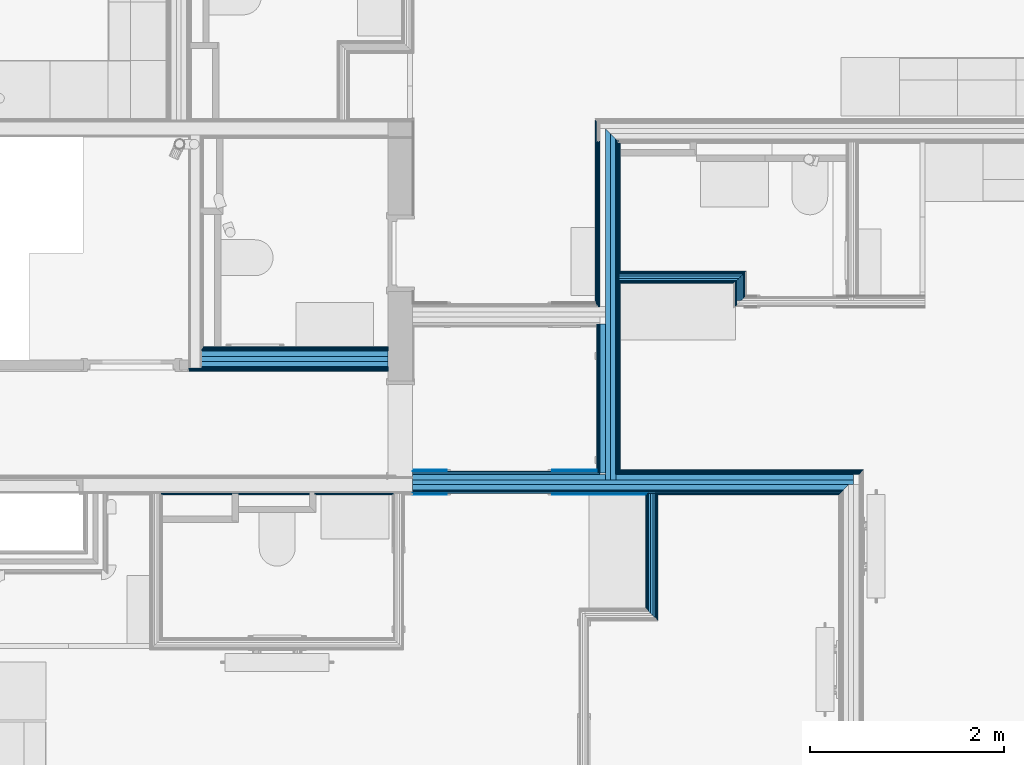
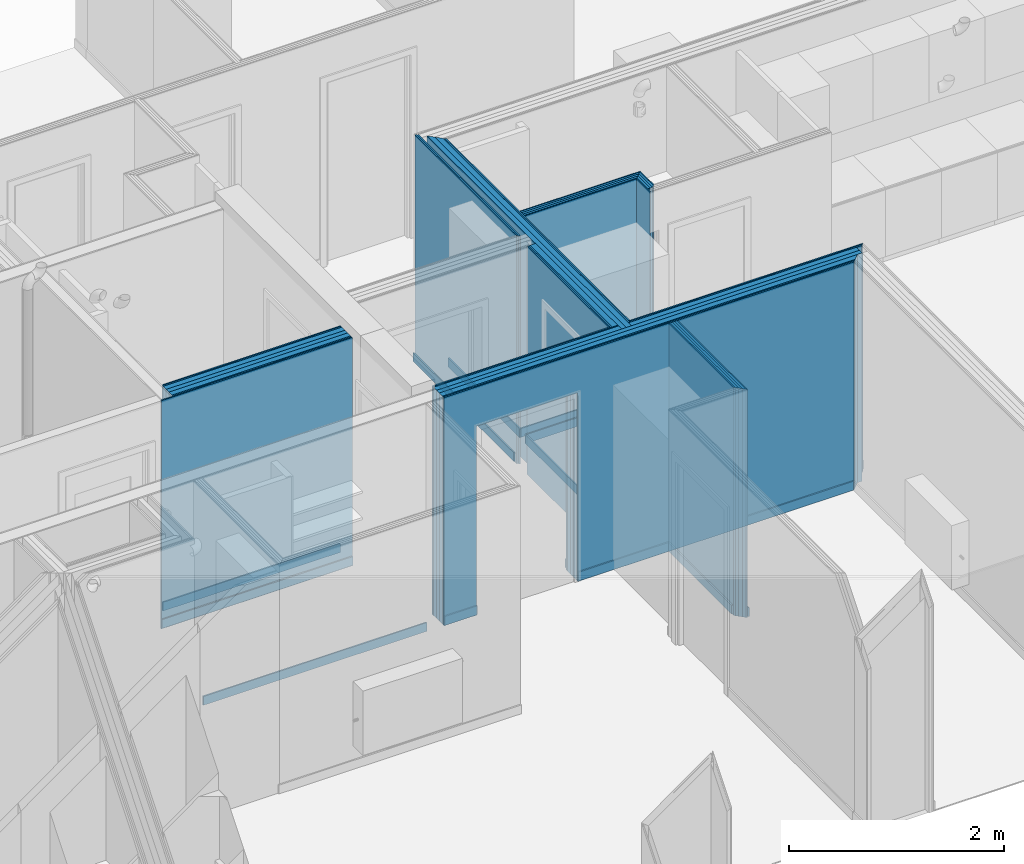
# One storey, part 21 of 82: 56 building element parts, 2 openings, 7 elements without a shape of their own.
"""IFC2X3 building model written with IfcOpenShell, lengths in metres."""

from ifc_helpers import new_model, entity, si_unit, converted_unit, derived_unit, money_unit, direction, frame, frame_2d, origin_with_axes, place, context, subcontext, project, spatial, polyline, rectangle, outline, extrude, material, type_object, element, aggregate, save


model = new_model("IFC2X3")

# Units and contexts
model_context = context("Model", 3, precision=1e-05, world=origin_with_axes(), true_north=direction((0.0, 1.0)))
body_context = subcontext(model_context, "Body", "Model", "MODEL_VIEW", scale=1.0)
ifc_project = project(units=[si_unit("LENGTHUNIT", "METRE"), si_unit("AREAUNIT", "SQUARE_METRE"), si_unit("VOLUMEUNIT", "CUBIC_METRE"), si_unit("ABSORBEDDOSEUNIT", "GRAY"), si_unit("AMOUNTOFSUBSTANCEUNIT", "MOLE"), si_unit("DOSEEQUIVALENTUNIT", "SIEVERT"), si_unit("ELECTRICCAPACITANCEUNIT", "FARAD"), si_unit("ELECTRICCHARGEUNIT", "COULOMB"), si_unit("ELECTRICCONDUCTANCEUNIT", "SIEMENS"), si_unit("ELECTRICCURRENTUNIT", "AMPERE"), si_unit("ELECTRICRESISTANCEUNIT", "OHM"), si_unit("ELECTRICVOLTAGEUNIT", "VOLT"), si_unit("ENERGYUNIT", "JOULE"), si_unit("FORCEUNIT", "NEWTON"), si_unit("FREQUENCYUNIT", "HERTZ"), si_unit("ILLUMINANCEUNIT", "LUX"), si_unit("INDUCTANCEUNIT", "HENRY"), si_unit("LUMINOUSFLUXUNIT", "LUMEN"), si_unit("LUMINOUSINTENSITYUNIT", "CANDELA"), si_unit("MAGNETICFLUXDENSITYUNIT", "TESLA"), si_unit("MAGNETICFLUXUNIT", "WEBER"), si_unit("MASSUNIT", "GRAM"), converted_unit("PLANEANGLEUNIT", "degree", entity("IfcReal", 0.0174532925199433), si_unit("PLANEANGLEUNIT", "RADIAN"), dimensions=[0, 0, 0, 0, 0, 0, 0]), si_unit("POWERUNIT", "WATT"), si_unit("PRESSUREUNIT", "PASCAL"), si_unit("RADIOACTIVITYUNIT", "BECQUEREL"), si_unit("SOLIDANGLEUNIT", "STERADIAN"), si_unit("THERMODYNAMICTEMPERATUREUNIT", "KELVIN"), si_unit("TIMEUNIT", "SECOND"), derived_unit("ACCELERATIONUNIT", [(si_unit("LENGTHUNIT", "METRE"), 1), (si_unit("TIMEUNIT", "SECOND"), -2)]), derived_unit("ANGULARVELOCITYUNIT", [(converted_unit("PLANEANGLEUNIT", "degree", entity("IfcReal", 0.0174532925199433), si_unit("PLANEANGLEUNIT", "RADIAN"), dimensions=[0, 0, 0, 0, 0, 0, 0]), 1), (si_unit("TIMEUNIT", "SECOND"), -1)]), derived_unit("CURVATUREUNIT", [(converted_unit("PLANEANGLEUNIT", "degree", entity("IfcReal", 0.0174532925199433), si_unit("PLANEANGLEUNIT", "RADIAN"), dimensions=[0, 0, 0, 0, 0, 0, 0]), 1), (si_unit("LENGTHUNIT", "METRE"), -1)]), derived_unit("DYNAMICVISCOSITYUNIT", [(si_unit("PRESSUREUNIT", "PASCAL"), 1), (si_unit("TIMEUNIT", "SECOND"), 1)]), derived_unit("HEATFLUXDENSITYUNIT", [(si_unit("POWERUNIT", "WATT"), 1), (si_unit("LENGTHUNIT", "METRE"), -2)]), derived_unit("HEATINGVALUEUNIT", [(si_unit("ENERGYUNIT", "JOULE"), 1), (si_unit("MASSUNIT", "GRAM"), -1)]), derived_unit("INTEGERCOUNTRATEUNIT", [(si_unit("TIMEUNIT", "SECOND"), -1)]), derived_unit("IONCONCENTRATIONUNIT", [(si_unit("MASSUNIT", "GRAM"), 1), (si_unit("VOLUMEUNIT", "CUBIC_METRE"), -1)]), derived_unit("ISOTHERMALMOISTURECAPACITYUNIT", [(si_unit("VOLUMEUNIT", "CUBIC_METRE"), 1), (si_unit("MASSUNIT", "GRAM"), -1)]), derived_unit("KINEMATICVISCOSITYUNIT", [(si_unit("AREAUNIT", "SQUARE_METRE"), 1), (si_unit("TIMEUNIT", "SECOND"), -1)]), derived_unit("LINEARFORCEUNIT", [(si_unit("FORCEUNIT", "NEWTON"), 1), (si_unit("LENGTHUNIT", "METRE"), -1)]), derived_unit("LINEARMOMENTUNIT", [(si_unit("FORCEUNIT", "NEWTON"), 1), (si_unit("LENGTHUNIT", "METRE"), -1)]), derived_unit("LINEARSTIFFNESSUNIT", [(si_unit("FORCEUNIT", "NEWTON"), 1), (si_unit("LENGTHUNIT", "METRE"), -1)]), derived_unit("LINEARVELOCITYUNIT", [(si_unit("LENGTHUNIT", "METRE"), 1), (si_unit("TIMEUNIT", "SECOND"), -1)]), derived_unit("LUMINOUSINTENSITYDISTRIBUTIONUNIT", [(si_unit("LUMINOUSINTENSITYUNIT", "CANDELA"), 1), (si_unit("LUMINOUSFLUXUNIT", "LUMEN"), -1)]), derived_unit("MASSDENSITYUNIT", [(si_unit("MASSUNIT", "GRAM"), 1), (si_unit("VOLUMEUNIT", "CUBIC_METRE"), -1)]), derived_unit("MASSFLOWRATEUNIT", [(si_unit("MASSUNIT", "GRAM"), 1), (si_unit("TIMEUNIT", "SECOND"), -1)]), derived_unit("MASSPERLENGTHUNIT", [(si_unit("MASSUNIT", "GRAM"), 1), (si_unit("LENGTHUNIT", "METRE"), -1)]), derived_unit("MODULUSOFELASTICITYUNIT", [(si_unit("FORCEUNIT", "NEWTON"), 1), (si_unit("AREAUNIT", "SQUARE_METRE"), -1)]), derived_unit("MODULUSOFLINEARSUBGRADEREACTIONUNIT", [(si_unit("FORCEUNIT", "NEWTON"), 1), (si_unit("LENGTHUNIT", "METRE"), -2)]), derived_unit("MODULUSOFROTATIONALSUBGRADEREACTIONUNIT", [(si_unit("FORCEUNIT", "NEWTON"), 1), (si_unit("LENGTHUNIT", "METRE"), 1)]), derived_unit("MODULUSOFSUBGRADEREACTIONUNIT", [(si_unit("FORCEUNIT", "NEWTON"), 1), (si_unit("VOLUMEUNIT", "CUBIC_METRE"), -1)]), derived_unit("MOISTUREDIFFUSIVITYUNIT", [(si_unit("VOLUMEUNIT", "CUBIC_METRE"), 1), (si_unit("TIMEUNIT", "SECOND"), -1)]), derived_unit("MOLECULARWEIGHTUNIT", [(si_unit("MASSUNIT", "GRAM"), 1), (si_unit("AMOUNTOFSUBSTANCEUNIT", "MOLE"), -1)]), derived_unit("PLANARFORCEUNIT", [(si_unit("FORCEUNIT", "NEWTON"), 1), (si_unit("LENGTHUNIT", "METRE"), -2)]), derived_unit("ROTATIONALFREQUENCYUNIT", [(si_unit("TIMEUNIT", "SECOND"), -1)]), derived_unit("ROTATIONALMASSUNIT", [(si_unit("MASSUNIT", "GRAM"), 1), (si_unit("LENGTHUNIT", "METRE"), 2)]), derived_unit("ROTATIONALSTIFFNESSUNIT", [(si_unit("FORCEUNIT", "NEWTON"), 1), (si_unit("LENGTHUNIT", "METRE"), 1), (converted_unit("PLANEANGLEUNIT", "degree", entity("IfcReal", 0.0174532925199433), si_unit("PLANEANGLEUNIT", "RADIAN"), dimensions=[0, 0, 0, 0, 0, 0, 0]), -1)]), derived_unit("SECTIONAREAINTEGRALUNIT", [(si_unit("LENGTHUNIT", "METRE"), 5)]), derived_unit("SECTIONMODULUSUNIT", [(si_unit("LENGTHUNIT", "METRE"), 3)]), derived_unit("SHEARMODULUSUNIT", [(si_unit("FORCEUNIT", "NEWTON"), 1), (si_unit("AREAUNIT", "SQUARE_METRE"), -1)]), derived_unit("SOUNDPOWERUNIT", [(si_unit("ENERGYUNIT", "JOULE"), 1), (si_unit("TIMEUNIT", "SECOND"), -1)]), derived_unit("SPECIFICHEATCAPACITYUNIT", [(si_unit("FORCEUNIT", "NEWTON"), 1), (si_unit("MASSUNIT", "GRAM"), -1), (si_unit("THERMODYNAMICTEMPERATUREUNIT", "KELVIN"), -1)]), derived_unit("TEMPERATUREGRADIENTUNIT", [(si_unit("THERMODYNAMICTEMPERATUREUNIT", "KELVIN"), 1), (si_unit("LENGTHUNIT", "METRE"), -1)]), derived_unit("THERMALADMITTANCEUNIT", [(si_unit("POWERUNIT", "WATT"), 1), (si_unit("AREAUNIT", "SQUARE_METRE"), -1), (si_unit("THERMODYNAMICTEMPERATUREUNIT", "KELVIN"), -1)]), derived_unit("THERMALCONDUCTANCEUNIT", [(si_unit("POWERUNIT", "WATT"), 1), (si_unit("LENGTHUNIT", "METRE"), -1), (si_unit("THERMODYNAMICTEMPERATUREUNIT", "KELVIN"), -1)]), derived_unit("THERMALEXPANSIONCOEFFICIENTUNIT", [(si_unit("THERMODYNAMICTEMPERATUREUNIT", "KELVIN"), -1)]), derived_unit("THERMALRESISTANCEUNIT", [(si_unit("AREAUNIT", "SQUARE_METRE"), 1), (si_unit("POWERUNIT", "WATT"), -1)]), derived_unit("THERMALTRANSMITTANCEUNIT", [(si_unit("POWERUNIT", "WATT"), 1), (si_unit("AREAUNIT", "SQUARE_METRE"), -1), (si_unit("THERMODYNAMICTEMPERATUREUNIT", "KELVIN"), -1)]), derived_unit("TORQUEUNIT", [(si_unit("FORCEUNIT", "NEWTON"), 1), (si_unit("LENGTHUNIT", "METRE"), 1)]), derived_unit("VAPORPERMEABILITYUNIT", [(si_unit("MASSUNIT", "GRAM"), 1), (si_unit("TIMEUNIT", "SECOND"), -1)]), derived_unit("VOLUMETRICFLOWRATEUNIT", [(si_unit("VOLUMEUNIT", "CUBIC_METRE"), 1), (si_unit("TIMEUNIT", "SECOND"), -1)]), derived_unit("WARPINGCONSTANTUNIT", [(si_unit("LENGTHUNIT", "METRE"), 6)]), derived_unit("WARPINGMOMENTUNIT", [(si_unit("FORCEUNIT", "NEWTON"), 1), (si_unit("LENGTHUNIT", "METRE"), 2)]), money_unit("GBP")], contexts=[model_context])

# Site, building, storey
site_placement = place(None, origin_with_axes())
site = spatial("IfcSite", under=ifc_project, at=site_placement, Name="Site", CompositionType="ELEMENT")
building_placement = place(site_placement, origin_with_axes())
building = spatial("IfcBuilding", under=site, at=building_placement, Name="Building01", CompositionType="ELEMENT")
storey_placement = place(building_placement, frame((0.0, 0.0, 12.13), z_axis=(0.0, 0.0, 1.0), x_axis=(1.0, 0.0, 0.0)))
storey = spatial("IfcBuildingStorey", under=building, at=storey_placement, Name="3F", CompositionType="ELEMENT", Elevation=12.13)

# Wall, openings, building element parts
wall_type_1 = type_object("IfcWallType", Name="SHE_A-Walls_Type01c_Partywall_225mm_twin_tall", PredefinedType="NOTDEFINED")
wall_1_placement = place(storey_placement, frame((18.0, 5.068, 0.0), z_axis=(0.0, 0.0, 1.0), x_axis=(1.0, 0.0, 0.0)))
wall_1 = element("IfcWall", 1, at=wall_1_placement, inside=storey, type_object=wall_type_1, Name="1C", ObjectType="SHE_A-Walls_Type01c_Partywall_225mm_twin_tall")
opening_1_placement = place(wall_1_placement, frame((0.353, 0.152, -0.03), z_axis=(0.0, 0.0, 1.0), x_axis=(1.0, 0.0, 0.0)))
element("IfcOpeningElement", 2, at=opening_1_placement, cuts=wall_1, Name="Opening", ObjectType="Opening", context=body_context, shape_type="SweptSolid", body=[
    extrude(rectangle(XDim=2.142, YDim=1.084, at=frame_2d((0.542, 1.071), x_axis=(0.0, -1.0))), frame((0.0, 0.0, 0.0), z_axis=(0.0, -1.0, 0.0), x_axis=(1.0, 0.0, 0.0)), (0.0, 0.0, 1.0), 0.255),
])
opening_2_placement = place(wall_1_placement, frame((0.35, 0.152, 0.0), z_axis=(0.0, 0.0, 1.0), x_axis=(1.0, 0.0, 0.0)))
element("IfcOpeningElement", 3, at=opening_2_placement, cuts=wall_1, Name="Opening", ObjectType="Opening", context=body_context, shape_type="SweptSolid", body=[
    extrude(rectangle(XDim=2.142, YDim=1.084, at=frame_2d((0.542, 1.071), x_axis=(0.0, -1.0))), frame((0.0, 0.0, 0.0), z_axis=(0.0, -1.0, 0.0), x_axis=(1.0, 0.0, 0.0)), (0.0, 0.0, 1.0), 0.255),
])
ifc_material_1 = material(Name="A_BSUK_Walls_Timber")
placement_1 = place(wall_1_placement, origin_with_axes())
building_element_part_1 = element("IfcBuildingElementPart", 4, at=placement_1, material=ifc_material_1, Name="1", context=body_context, shape_type="SweptSolid", body=[
    extrude(rectangle(XDim=2.415, YDim=0.015, at=frame_2d((1.2075, -0.0955), x_axis=(-1.0, 0.0))), frame((0.0, 0.0, 0.015), z_axis=(0.0, 0.0, 1.0), x_axis=(1.0, 0.0, 0.0)), (0.0, 0.0, 1.0), 0.1),
])
building_element_part_2 = element("IfcBuildingElementPart", 5, at=placement_1, material=ifc_material_1, Name="2", context=body_context, shape_type="SweptSolid", body=[
    extrude(outline(polyline([(4.4, -0.088), (2.51, -0.088), (2.51, -0.103), (4.385, -0.103), (4.4, -0.088)])), frame((0.0, 0.0, 0.015), z_axis=(0.0, 0.0, 1.0), x_axis=(1.0, 0.0, 0.0)), (0.0, 0.0, 1.0), 0.1),
])
ifc_material_2 = material(Name="A_BSUK_WallInternal_Finishes_Plasterboard")
building_element_part_3 = element("IfcBuildingElementPart", 6, at=placement_1, material=ifc_material_2, Name="3", context=body_context, shape_type="SweptSolid", body=[
    extrude(outline(polyline([(4.415, -0.073), (0.0, -0.073), (0.0, -0.088), (4.4, -0.088), (4.415, -0.073)])), origin_with_axes(), (0.0, 0.0, 1.0), 2.59),
])
building_element_part_4 = element("IfcBuildingElementPart", 7, at=placement_1, material=ifc_material_2, Name="4", context=body_context, shape_type="SweptSolid", body=[
    extrude(outline(polyline([(4.415, -0.073), (0.0, -0.073), (0.0, -0.088), (4.4, -0.088), (4.415, -0.073)])), origin_with_axes(), (0.0, 0.0, 1.0), 2.59),
])
building_element_part_5 = element("IfcBuildingElementPart", 8, at=placement_1, material=ifc_material_2, Name="5", context=body_context, shape_type="SweptSolid", body=[
    extrude(outline(polyline([(4.43, -0.058), (0.0, -0.058), (0.0, -0.073), (4.415, -0.073), (4.43, -0.058)])), origin_with_axes(), (0.0, 0.0, 1.0), 2.59),
])
ifc_material_3 = material(Name="Air Cavity")
building_element_part_6 = element("IfcBuildingElementPart", 9, at=placement_1, material=ifc_material_3, Name="6", context=body_context, shape_type="SweptSolid", body=[
    extrude(outline(polyline([(4.488, 0.0), (0.0, 0.0), (0.0, -0.058), (4.43, -0.058), (4.488, 0.0)])), origin_with_axes(), (0.0, 0.0, 1.0), 2.59),
])
ifc_material_4 = material(Name="A_BSUK_Insulation")
building_element_part_7 = element("IfcBuildingElementPart", 10, at=placement_1, material=ifc_material_4, Name="7", context=body_context, shape_type="SweptSolid", body=[
    extrude(rectangle(XDim=4.538, YDim=0.05, at=frame_2d((2.269, 0.025), x_axis=(-1.0, 0.0))), origin_with_axes(), (0.0, 0.0, 1.0), 2.59),
])
building_element_part_8 = element("IfcBuildingElementPart", 11, at=placement_1, material=ifc_material_3, Name="8", context=body_context, shape_type="SweptSolid", body=[
    extrude(rectangle(XDim=4.538, YDim=0.057, at=frame_2d((2.269, 0.0785), x_axis=(-1.0, 0.0))), origin_with_axes(), (0.0, 0.0, 1.0), 2.59),
])
building_element_part_9 = element("IfcBuildingElementPart", 12, at=placement_1, material=ifc_material_2, Name="9", context=body_context, shape_type="SweptSolid", body=[
    extrude(rectangle(XDim=1.927661, YDim=0.015, at=frame_2d((0.963831, 0.1145), x_axis=(-1.0, 0.0))), origin_with_axes(), (0.0, 0.0, 1.0), 2.59),
])
building_element_part_10 = element("IfcBuildingElementPart", 13, at=placement_1, material=ifc_material_2, Name="10", context=body_context, shape_type="SweptSolid", body=[
    extrude(outline(polyline([(4.61, 0.122), (2.107661, 0.122), (2.107661, 0.107), (4.595, 0.107), (4.61, 0.122)])), origin_with_axes(), (0.0, 0.0, 1.0), 2.59),
])
building_element_part_11 = element("IfcBuildingElementPart", 14, at=placement_1, material=ifc_material_2, Name="11", context=body_context, shape_type="SweptSolid", body=[
    extrude(rectangle(XDim=1.912661, YDim=0.015, at=frame_2d((0.956331, 0.1295), x_axis=(-1.0, 0.0))), origin_with_axes(), (0.0, 0.0, 1.0), 2.59),
])
building_element_part_12 = element("IfcBuildingElementPart", 15, at=placement_1, material=ifc_material_2, Name="12", context=body_context, shape_type="SweptSolid", body=[
    extrude(outline(polyline([(4.625, 0.137), (2.107661, 0.137), (2.107661, 0.122), (4.61, 0.122), (4.625, 0.137)])), origin_with_axes(), (0.0, 0.0, 1.0), 2.59),
])
building_element_part_13 = element("IfcBuildingElementPart", 16, at=placement_1, material=ifc_material_1, Name="13", context=body_context, shape_type="SweptSolid", body=[
    extrude(outline(polyline([(1.897661, 0.152), (0.015, 0.152), (0.0, 0.137), (1.897661, 0.137), (1.897661, 0.152)])), frame((0.0, 0.0, 0.015), z_axis=(0.0, 0.0, 1.0), x_axis=(1.0, 0.0, 0.0)), (0.0, 0.0, 1.0), 0.1),
])
building_element_part_14 = element("IfcBuildingElementPart", 17, at=placement_1, material=ifc_material_1, Name="14", context=body_context, shape_type="SweptSolid", body=[
    extrude(outline(polyline([(4.64, 0.152), (2.137661, 0.152), (2.137661, 0.137), (4.625, 0.137), (4.64, 0.152)])), frame((0.0, 0.0, 0.015), z_axis=(0.0, 0.0, 1.0), x_axis=(1.0, 0.0, 0.0)), (0.0, 0.0, 1.0), 0.1),
])
aggregate(wall_1, [building_element_part_1, building_element_part_2, building_element_part_3, building_element_part_4, building_element_part_5, building_element_part_6, building_element_part_7, building_element_part_8, building_element_part_9, building_element_part_10, building_element_part_11, building_element_part_12, building_element_part_13, building_element_part_14])

# Wall, building element parts
wall_2_placement = place(storey_placement, frame((17.75, 6.337, 0.0), z_axis=(0.0, 0.0, 1.0), x_axis=(-1.0, 0.0, 0.0)))
wall_2 = element("IfcWall", 18, at=wall_2_placement, inside=storey, type_object=wall_type_1, Name="1C", ObjectType="SHE_A-Walls_Type01c_Partywall_225mm_twin_tall")
placement_2 = place(wall_2_placement, origin_with_axes())
building_element_part_15 = element("IfcBuildingElementPart", 19, at=placement_2, material=ifc_material_1, Name="1", context=body_context, shape_type="SweptSolid", body=[
    extrude(rectangle(XDim=1.905, YDim=0.015, at=frame_2d((0.9525, -0.1455), x_axis=(-1.0, 0.0))), frame((0.0, 0.0, 0.015), z_axis=(0.0, 0.0, 1.0), x_axis=(1.0, 0.0, 0.0)), (0.0, 0.0, 1.0), 0.1),
])
building_element_part_16 = element("IfcBuildingElementPart", 20, at=placement_2, material=ifc_material_2, Name="2", context=body_context, shape_type="SweptSolid", body=[
    extrude(outline(polyline([(1.92, -0.123), (0.0, -0.123), (0.0, -0.138), (1.905, -0.138), (1.92, -0.123)])), origin_with_axes(), (0.0, 0.0, 1.0), 2.59),
])
building_element_part_17 = element("IfcBuildingElementPart", 21, at=placement_2, material=ifc_material_2, Name="3", context=body_context, shape_type="SweptSolid", body=[
    extrude(rectangle(XDim=1.92, YDim=0.015, at=frame_2d((0.96, -0.1155), x_axis=(-1.0, 0.0))), origin_with_axes(), (0.0, 0.0, 1.0), 2.59),
])
building_element_part_18 = element("IfcBuildingElementPart", 22, at=placement_2, material=ifc_material_3, Name="4", context=body_context, shape_type="SweptSolid", body=[
    extrude(rectangle(XDim=1.92, YDim=0.058, at=frame_2d((0.96, -0.079), x_axis=(-1.0, 0.0))), origin_with_axes(), (0.0, 0.0, 1.0), 2.59),
])
building_element_part_19 = element("IfcBuildingElementPart", 23, at=placement_2, material=ifc_material_4, Name="5", context=body_context, shape_type="SweptSolid", body=[
    extrude(rectangle(XDim=1.92, YDim=0.05, at=frame_2d((0.96, -0.025), x_axis=(-1.0, 0.0))), origin_with_axes(), (0.0, 0.0, 1.0), 2.59),
])
building_element_part_20 = element("IfcBuildingElementPart", 24, at=placement_2, material=ifc_material_3, Name="6", context=body_context, shape_type="SweptSolid", body=[
    extrude(rectangle(XDim=1.92, YDim=0.057, at=frame_2d((0.96, 0.0285), x_axis=(-1.0, 0.0))), origin_with_axes(), (0.0, 0.0, 1.0), 2.59),
])
building_element_part_21 = element("IfcBuildingElementPart", 25, at=placement_2, material=ifc_material_2, Name="7", context=body_context, shape_type="SweptSolid", body=[
    extrude(rectangle(XDim=1.92, YDim=0.015, at=frame_2d((0.96, 0.0645), x_axis=(-1.0, 0.0))), origin_with_axes(), (0.0, 0.0, 1.0), 2.59),
])
building_element_part_22 = element("IfcBuildingElementPart", 26, at=placement_2, material=ifc_material_2, Name="8", context=body_context, shape_type="SweptSolid", body=[
    extrude(rectangle(XDim=2.05, YDim=0.015, at=frame_2d((1.025, 0.0795), x_axis=(-1.0, 0.0))), origin_with_axes(), (0.0, 0.0, 1.0), 2.59),
])
building_element_part_23 = element("IfcBuildingElementPart", 27, at=placement_2, material=ifc_material_1, Name="9", context=body_context, shape_type="SweptSolid", body=[
    extrude(rectangle(XDim=2.05, YDim=0.015, at=frame_2d((1.025, 0.0945), x_axis=(-1.0, 0.0))), frame((0.0, 0.0, 0.015), z_axis=(0.0, 0.0, 1.0), x_axis=(1.0, 0.0, 0.0)), (0.0, 0.0, 1.0), 0.1),
])
aggregate(wall_2, [building_element_part_15, building_element_part_16, building_element_part_17, building_element_part_18, building_element_part_19, building_element_part_20, building_element_part_21, building_element_part_22, building_element_part_23])

wall_3_placement = place(storey_placement, frame((19.985661, 8.732, 0.0), z_axis=(0.0, 0.0, 1.0), x_axis=(0.0, -1.0, 0.0)))
wall_3 = element("IfcWall", 28, at=wall_3_placement, inside=storey, type_object=wall_type_1, Name="1C", ObjectType="SHE_A-Walls_Type01c_Partywall_225mm_twin_tall")
placement_3 = place(wall_3_placement, origin_with_axes())
building_element_part_24 = element("IfcBuildingElementPart", 29, at=placement_3, material=ifc_material_1, Name="1", context=body_context, shape_type="SweptSolid", body=[
    extrude(outline(polyline([(1.787, -0.088), (-0.073, -0.088), (-0.088, -0.103), (1.787, -0.103), (1.787, -0.088)])), frame((0.0, 0.0, 0.015), z_axis=(0.0, 0.0, 1.0), x_axis=(1.0, 0.0, 0.0)), (0.0, 0.0, 1.0), 0.1),
])
building_element_part_25 = element("IfcBuildingElementPart", 30, at=placement_3, material=ifc_material_1, Name="2", context=body_context, shape_type="SweptSolid", body=[
    extrude(outline(polyline([(1.802, -0.088), (-0.073, -0.088), (-0.088, -0.103), (1.802, -0.103), (1.802, -0.088)])), frame((0.0, 0.0, 0.015), z_axis=(0.0, 0.0, 1.0), x_axis=(1.0, 0.0, 0.0)), (0.0, 0.0, 1.0), 0.1),
])
building_element_part_26 = element("IfcBuildingElementPart", 31, at=placement_3, material=ifc_material_2, Name="3", context=body_context, shape_type="SweptSolid", body=[
    extrude(rectangle(XDim=1.89, YDim=0.015, at=frame_2d((0.872, -0.0805), x_axis=(-1.0, 0.0))), origin_with_axes(), (0.0, 0.0, 1.0), 2.59),
])
building_element_part_27 = element("IfcBuildingElementPart", 32, at=placement_3, material=ifc_material_2, Name="5", context=body_context, shape_type="SweptSolid", body=[
    extrude(rectangle(XDim=1.515, YDim=0.015, at=frame_2d((2.7695, -0.0805), x_axis=(-1.0, 0.0))), origin_with_axes(), (0.0, 0.0, 1.0), 2.59),
])
building_element_part_28 = element("IfcBuildingElementPart", 33, at=placement_3, material=ifc_material_2, Name="6", context=body_context, shape_type="SweptSolid", body=[
    extrude(rectangle(XDim=1.89, YDim=0.015, at=frame_2d((0.887, -0.0655), x_axis=(-1.0, 0.0))), origin_with_axes(), (0.0, 0.0, 1.0), 2.59),
])
building_element_part_29 = element("IfcBuildingElementPart", 34, at=placement_3, material=ifc_material_2, Name="8", context=body_context, shape_type="SweptSolid", body=[
    extrude(rectangle(XDim=1.53, YDim=0.015, at=frame_2d((2.777, -0.0655), x_axis=(-1.0, 0.0))), origin_with_axes(), (0.0, 0.0, 1.0), 2.59),
])
building_element_part_30 = element("IfcBuildingElementPart", 35, at=placement_3, material=ifc_material_3, Name="9", context=body_context, shape_type="SweptSolid", body=[
    extrude(rectangle(XDim=1.53, YDim=0.058, at=frame_2d((2.777, -0.029), x_axis=(-1.0, 0.0))), origin_with_axes(), (0.0, 0.0, 1.0), 2.59),
])
building_element_part_31 = element("IfcBuildingElementPart", 36, at=placement_3, material=ifc_material_4, Name="10", context=body_context, shape_type="SweptSolid", body=[
    extrude(outline(polyline([(3.614, 0.05), (0.05, 0.05), (0.0, 0.0), (3.614, 0.0), (3.614, 0.05)])), origin_with_axes(), (0.0, 0.0, 1.0), 2.59),
])
building_element_part_32 = element("IfcBuildingElementPart", 37, at=placement_3, material=ifc_material_3, Name="11", context=body_context, shape_type="SweptSolid", body=[
    extrude(outline(polyline([(3.614, 0.107), (0.107, 0.107), (0.05, 0.05), (3.614, 0.05), (3.614, 0.107)])), origin_with_axes(), (0.0, 0.0, 1.0), 2.59),
])
building_element_part_33 = element("IfcBuildingElementPart", 38, at=placement_3, material=ifc_material_2, Name="12", context=body_context, shape_type="SweptSolid", body=[
    extrude(outline(polyline([(3.557, 0.122), (0.122, 0.122), (0.107, 0.107), (3.557, 0.107), (3.557, 0.122)])), origin_with_axes(), (0.0, 0.0, 1.0), 2.59),
])
building_element_part_34 = element("IfcBuildingElementPart", 39, at=placement_3, material=ifc_material_2, Name="13", context=body_context, shape_type="SweptSolid", body=[
    extrude(rectangle(XDim=3.405, YDim=0.015, at=frame_2d((1.8245, 0.1295), x_axis=(-1.0, 0.0))), origin_with_axes(), (0.0, 0.0, 1.0), 2.59),
])
building_element_part_35 = element("IfcBuildingElementPart", 40, at=placement_3, material=ifc_material_1, Name="14", context=body_context, shape_type="SweptSolid", body=[
    extrude(rectangle(XDim=1.33, YDim=0.015, at=frame_2d((0.817, 0.1445), x_axis=(-1.0, 0.0))), frame((0.0, 0.0, 0.015), z_axis=(0.0, 0.0, 1.0), x_axis=(1.0, 0.0, 0.0)), (0.0, 0.0, 1.0), 0.1),
])
building_element_part_36 = element("IfcBuildingElementPart", 41, at=placement_3, material=ifc_material_1, Name="15", context=body_context, shape_type="SweptSolid", body=[
    extrude(rectangle(XDim=1.935, YDim=0.015, at=frame_2d((2.5595, 0.1445), x_axis=(-1.0, 0.0))), frame((0.0, 0.0, 0.015), z_axis=(0.0, 0.0, 1.0), x_axis=(1.0, 0.0, 0.0)), (0.0, 0.0, 1.0), 0.1),
])
aggregate(wall_3, [building_element_part_24, building_element_part_25, building_element_part_26, building_element_part_27, building_element_part_28, building_element_part_29, building_element_part_30, building_element_part_31, building_element_part_32, building_element_part_33, building_element_part_34, building_element_part_35, building_element_part_36])

wall_type_2 = type_object("IfcWallType", Name="SHE_A-Walls_Type05a_Partition_95mm_tall", PredefinedType="NOTDEFINED")
wall_4_placement = place(storey_placement, frame((21.382661, 6.965, 0.0), z_axis=(0.0, 0.0, 1.0), x_axis=(0.0, 1.0, 0.0)))
wall_4 = element("IfcWall", 42, at=wall_4_placement, inside=storey, type_object=wall_type_2, Name="5A", ObjectType="SHE_A-Walls_Type05a_Partition_95mm_tall")
placement_4 = place(wall_4_placement, origin_with_axes())
building_element_part_37 = element("IfcBuildingElementPart", 43, at=placement_4, material=ifc_material_2, Name="2", context=body_context, shape_type="SweptSolid", body=[
    extrude(outline(polyline([(0.273, -0.023), (0.023, -0.023), (0.035, -0.035), (0.285, -0.035), (0.273, -0.023)])), origin_with_axes(), (0.0, 0.0, 1.0), 2.59),
])
building_element_part_38 = element("IfcBuildingElementPart", 44, at=placement_4, material=ifc_material_3, Name="3", context=body_context, shape_type="SweptSolid", body=[
    extrude(outline(polyline([(0.25, 0.0), (0.0, 0.0), (0.023, -0.023), (0.273, -0.023), (0.25, 0.0)])), origin_with_axes(), (0.0, 0.0, 1.0), 2.59),
])
building_element_part_39 = element("IfcBuildingElementPart", 45, at=placement_4, material=ifc_material_4, Name="4", context=body_context, shape_type="SweptSolid", body=[
    extrude(outline(polyline([(0.225, 0.025), (0.0, 0.025), (0.0, 0.0), (0.25, 0.0), (0.225, 0.025)])), origin_with_axes(), (0.0, 0.0, 1.0), 2.59),
])
building_element_part_40 = element("IfcBuildingElementPart", 46, at=placement_4, material=ifc_material_3, Name="5", context=body_context, shape_type="SweptSolid", body=[
    extrude(outline(polyline([(0.202, 0.048), (0.0, 0.048), (0.0, 0.025), (0.225, 0.025), (0.202, 0.048)])), origin_with_axes(), (0.0, 0.0, 1.0), 2.59),
])
building_element_part_41 = element("IfcBuildingElementPart", 47, at=placement_4, material=ifc_material_2, Name="6", context=body_context, shape_type="SweptSolid", body=[
    extrude(outline(polyline([(0.19, 0.06), (-0.06, 0.06), (-0.048, 0.048), (0.202, 0.048), (0.19, 0.06)])), origin_with_axes(), (0.0, 0.0, 1.0), 2.59),
])
aggregate(wall_4, [building_element_part_37, building_element_part_38, building_element_part_39, building_element_part_40, building_element_part_41])

wall_5_placement = place(storey_placement, frame((21.382661, 7.215, 0.0), z_axis=(0.0, 0.0, 1.0), x_axis=(-1.0, 0.0, 0.0)))
wall_5 = element("IfcWall", 48, at=wall_5_placement, inside=storey, type_object=wall_type_2, Name="5A", ObjectType="SHE_A-Walls_Type05a_Partition_95mm_tall")
placement_5 = place(wall_5_placement, origin_with_axes())
building_element_part_42 = element("IfcBuildingElementPart", 49, at=placement_5, material=ifc_material_1, Name="1", context=body_context, shape_type="SweptSolid", body=[
    extrude(outline(polyline([(1.245, -0.035), (-0.035, -0.035), (-0.05, -0.05), (1.245, -0.05), (1.245, -0.035)])), frame((0.0, 0.0, 0.015), z_axis=(0.0, 0.0, 1.0), x_axis=(1.0, 0.0, 0.0)), (0.0, 0.0, 1.0), 0.1),
])
building_element_part_43 = element("IfcBuildingElementPart", 50, at=placement_5, material=ifc_material_2, Name="2", context=body_context, shape_type="SweptSolid", body=[
    extrude(outline(polyline([(1.26, -0.023), (-0.023, -0.023), (-0.035, -0.035), (1.26, -0.035), (1.26, -0.023)])), origin_with_axes(), (0.0, 0.0, 1.0), 2.59),
])
building_element_part_44 = element("IfcBuildingElementPart", 51, at=placement_5, material=ifc_material_3, Name="3", context=body_context, shape_type="SweptSolid", body=[
    extrude(outline(polyline([(1.26, 0.0), (0.0, 0.0), (-0.023, -0.023), (1.26, -0.023), (1.26, 0.0)])), origin_with_axes(), (0.0, 0.0, 1.0), 2.59),
])
building_element_part_45 = element("IfcBuildingElementPart", 52, at=placement_5, material=ifc_material_4, Name="4", context=body_context, shape_type="SweptSolid", body=[
    extrude(outline(polyline([(1.26, 0.025), (0.025, 0.025), (0.0, 0.0), (1.26, 0.0), (1.26, 0.025)])), origin_with_axes(), (0.0, 0.0, 1.0), 2.59),
])
building_element_part_46 = element("IfcBuildingElementPart", 53, at=placement_5, material=ifc_material_3, Name="5", context=body_context, shape_type="SweptSolid", body=[
    extrude(outline(polyline([(1.26, 0.048), (0.048, 0.048), (0.025, 0.025), (1.26, 0.025), (1.26, 0.048)])), origin_with_axes(), (0.0, 0.0, 1.0), 2.59),
])
building_element_part_47 = element("IfcBuildingElementPart", 54, at=placement_5, material=ifc_material_2, Name="6", context=body_context, shape_type="SweptSolid", body=[
    extrude(outline(polyline([(1.26, 0.06), (0.06, 0.06), (0.048, 0.048), (1.26, 0.048), (1.26, 0.06)])), origin_with_axes(), (0.0, 0.0, 1.0), 2.59),
])
building_element_part_48 = element("IfcBuildingElementPart", 55, at=placement_5, material=ifc_material_1, Name="7", context=body_context, shape_type="SweptSolid", body=[
    extrude(outline(polyline([(1.26, 0.075), (0.075, 0.075), (0.06, 0.06), (1.26, 0.06), (1.26, 0.075)])), frame((0.0, 0.0, 0.015), z_axis=(0.0, 0.0, 1.0), x_axis=(1.0, 0.0, 0.0)), (0.0, 0.0, 1.0), 0.1),
])
aggregate(wall_5, [building_element_part_42, building_element_part_43, building_element_part_44, building_element_part_45, building_element_part_46, building_element_part_47, building_element_part_48])

# Wall, building element part
wall_type_3 = type_object("IfcWallType", Name="SHE_A-Walls_Type03a_BlockworkWall_170mm", PredefinedType="NOTDEFINED")
wall_6_placement = place(storey_placement, frame((9.06, 4.995, 0.0), z_axis=(0.0, 0.0, 1.0), x_axis=(1.0, 0.0, 0.0)))
wall_6 = element("IfcWall", 56, at=wall_6_placement, inside=storey, type_object=wall_type_3, Name="4B", ObjectType="SHE_A-Walls_Type03a_BlockworkWall_170mm")
building_element_part_49_placement = place(wall_6_placement, origin_with_axes())
building_element_part_49 = element("IfcBuildingElementPart", 57, at=building_element_part_49_placement, material=ifc_material_1, Name="5", context=body_context, shape_type="SweptSolid", body=[
    extrude(rectangle(XDim=2.4, YDim=0.015, at=frame_2d((7.5475, -0.0225), x_axis=(-1.0, 0.0))), frame((0.0, 0.0, 0.015), z_axis=(0.0, 0.0, 1.0), x_axis=(1.0, 0.0, 0.0)), (0.0, 0.0, 1.0), 0.1),
])
aggregate(wall_6, [building_element_part_49])

# Wall, building element parts
wall_7_placement = place(storey_placement, frame((20.475, 3.72, 0.0), z_axis=(0.0, 0.0, 1.0), x_axis=(0.0, 1.0, 0.0)))
wall_7 = element("IfcWall", 58, at=wall_7_placement, inside=storey, type_object=wall_type_2, Name="5A", ObjectType="SHE_A-Walls_Type05a_Partition_95mm_tall")
placement_6 = place(wall_7_placement, origin_with_axes())
building_element_part_50 = element("IfcBuildingElementPart", 59, at=placement_6, material=ifc_material_1, Name="1", context=body_context, shape_type="SweptSolid", body=[
    extrude(outline(polyline([(1.245, -0.035), (-0.035, -0.035), (-0.05, -0.05), (1.245, -0.05), (1.245, -0.035)])), frame((0.0, 0.0, 0.015), z_axis=(0.0, 0.0, 1.0), x_axis=(1.0, 0.0, 0.0)), (0.0, 0.0, 1.0), 0.1),
])
building_element_part_51 = element("IfcBuildingElementPart", 60, at=placement_6, material=ifc_material_2, Name="2", context=body_context, shape_type="SweptSolid", body=[
    extrude(outline(polyline([(1.26, -0.023), (-0.023, -0.023), (-0.035, -0.035), (1.26, -0.035), (1.26, -0.023)])), origin_with_axes(), (0.0, 0.0, 1.0), 2.59),
])
building_element_part_52 = element("IfcBuildingElementPart", 61, at=placement_6, material=ifc_material_3, Name="3", context=body_context, shape_type="SweptSolid", body=[
    extrude(outline(polyline([(1.26, 0.0), (0.0, 0.0), (-0.023, -0.023), (1.26, -0.023), (1.26, 0.0)])), origin_with_axes(), (0.0, 0.0, 1.0), 2.59),
])
building_element_part_53 = element("IfcBuildingElementPart", 62, at=placement_6, material=ifc_material_4, Name="4", context=body_context, shape_type="SweptSolid", body=[
    extrude(outline(polyline([(1.26, 0.025), (0.025, 0.025), (0.0, 0.0), (1.26, 0.0), (1.26, 0.025)])), origin_with_axes(), (0.0, 0.0, 1.0), 2.59),
])
building_element_part_54 = element("IfcBuildingElementPart", 63, at=placement_6, material=ifc_material_3, Name="5", context=body_context, shape_type="SweptSolid", body=[
    extrude(outline(polyline([(1.26, 0.048), (0.048, 0.048), (0.025, 0.025), (1.26, 0.025), (1.26, 0.048)])), origin_with_axes(), (0.0, 0.0, 1.0), 2.59),
])
building_element_part_55 = element("IfcBuildingElementPart", 64, at=placement_6, material=ifc_material_2, Name="6", context=body_context, shape_type="SweptSolid", body=[
    extrude(outline(polyline([(1.26, 0.06), (0.06, 0.06), (0.048, 0.048), (1.26, 0.048), (1.26, 0.06)])), origin_with_axes(), (0.0, 0.0, 1.0), 2.59),
])
building_element_part_56 = element("IfcBuildingElementPart", 65, at=placement_6, material=ifc_material_1, Name="7", context=body_context, shape_type="SweptSolid", body=[
    extrude(outline(polyline([(1.245, 0.075), (0.075, 0.075), (0.06, 0.06), (1.245, 0.06), (1.245, 0.075)])), frame((0.0, 0.0, 0.015), z_axis=(0.0, 0.0, 1.0), x_axis=(1.0, 0.0, 0.0)), (0.0, 0.0, 1.0), 0.1),
])
aggregate(wall_7, [building_element_part_50, building_element_part_51, building_element_part_52, building_element_part_53, building_element_part_54, building_element_part_55, building_element_part_56])

save(model, "model.ifc")
